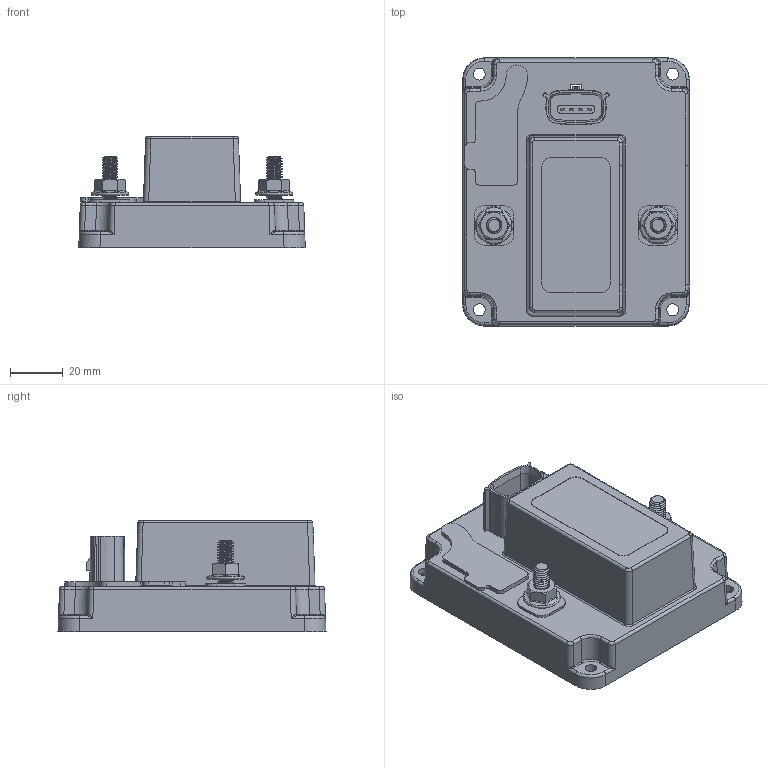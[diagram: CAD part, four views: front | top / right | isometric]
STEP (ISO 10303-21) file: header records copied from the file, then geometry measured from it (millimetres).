
FILE_DESCRIPTION(/* description */ (''),/* implementation_level */ '2;1');
FILE_NAME(/* name */ '5fa1ccb142f96e11f34bd528',/* time_stamp */ '2020-11-03T21:33:38+00:00',/* author */ (''),/* organization */ (''),/* preprocessor_version */ 'ST-DEVELOPER v16.7',/* originating_system */ $,/* authorisation */ $);
FILE_SCHEMA (('AUTOMOTIVE_DESIGN {1 0 10303 214 3 1 1}'));
Length unit declared in the file: metre
Products named in the file (1): Part 1
Bounding box: 85.5 x 101.18 x 42 mm (x, y, z)
Volume: 195746.2 mm3; surface area: 34742.7 mm2
Topology: 1 solids, 1 shells, 456 faces, 1167 edges, 716 vertices
Faces by surface type: plane 186, cylinder 125, bspline 72, cone 67, torus 4, sphere 2
Full cylindrical faces by diameter (mm): 4 x1
Entity records: 24153 total; most frequent: CARTESIAN_POINT 13560, ORIENTED_EDGE 2274, DIRECTION 2147, EDGE_CURVE 1137, AXIS2_PLACEMENT_3D 795, VERTEX_POINT 708, LINE 557, VECTOR 557
